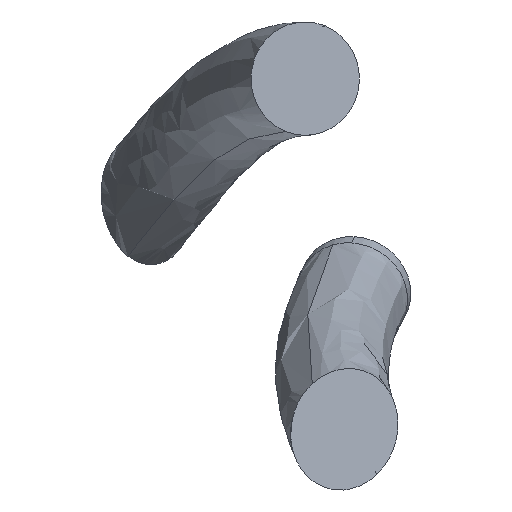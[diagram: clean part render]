
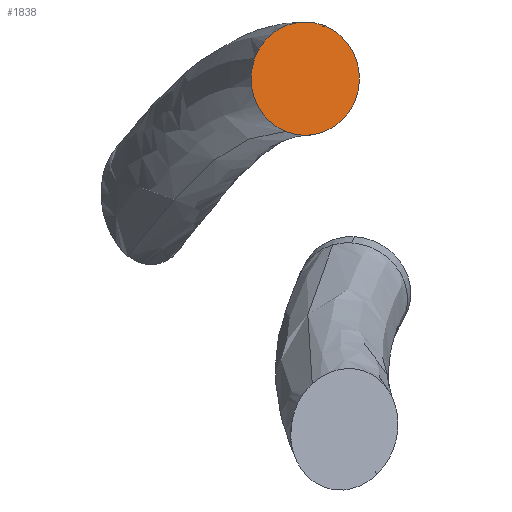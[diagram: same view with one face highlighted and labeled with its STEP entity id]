
A CAD part, top view. The second image highlights one B-rep face of the part: STEP entity #1838.
In plain terms, the highlighted planar face has unit normal (0.292, 0, 0.956).
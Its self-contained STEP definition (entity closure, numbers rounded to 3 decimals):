
#11 = ORIENTED_EDGE ( 'NONE', *, *, #1747, .T. ) ;
#91 = CARTESIAN_POINT ( 'NONE',  ( 734.504, -249.5, 722.316 ) ) ;
#177 = ORIENTED_EDGE ( 'NONE', *, *, #1212, .T. ) ;
#194 = AXIS2_PLACEMENT_3D ( 'NONE', #1551, #764, #606 ) ;
#256 = DIRECTION ( 'NONE',  ( 0.35, 0.931, -0.107 ) ) ;
#298 = VERTEX_POINT ( 'NONE', #556 ) ;
#452 = EDGE_LOOP ( 'NONE', ( #11, #177 ) ) ;
#556 = CARTESIAN_POINT ( 'NONE',  ( 742.371, -228.557, 719.911 ) ) ;
#605 = DIRECTION ( 'NONE',  ( 0.292, 0., 0.956 ) ) ;
#606 = DIRECTION ( 'NONE',  ( 0.35, 0.931, -0.107 ) ) ;
#764 = DIRECTION ( 'NONE',  ( 0.292, 0., 0.956 ) ) ;
#852 = AXIS2_PLACEMENT_3D ( 'NONE', #1730, #605, #1713 ) ;
#923 = PLANE ( 'NONE',  #194 ) ;
#963 = VERTEX_POINT ( 'NONE', #1952 ) ;
#1155 = AXIS2_PLACEMENT_3D ( 'NONE', #91, #1362, #256 ) ;
#1212 = EDGE_CURVE ( 'NONE', #963, #298, #1478, .T. ) ;
#1362 = DIRECTION ( 'NONE',  ( 0.292, 0., 0.956 ) ) ;
#1478 = CIRCLE ( 'NONE', #852, 22.5 ) ;
#1551 = CARTESIAN_POINT ( 'NONE',  ( 734.504, -249.5, 722.316 ) ) ;
#1615 = CIRCLE ( 'NONE', #1155, 22.5 ) ;
#1713 = DIRECTION ( 'NONE',  ( 0.35, 0.931, -0.107 ) ) ;
#1714 = FACE_OUTER_BOUND ( 'NONE', #452, .T. ) ;
#1730 = CARTESIAN_POINT ( 'NONE',  ( 734.504, -249.5, 722.316 ) ) ;
#1747 = EDGE_CURVE ( 'NONE', #298, #963, #1615, .T. ) ;
#1838 = ADVANCED_FACE ( 'NONE', ( #1714 ), #923, .T. ) ;
#1952 = CARTESIAN_POINT ( 'NONE',  ( 726.638, -270.443, 724.721 ) ) ;
